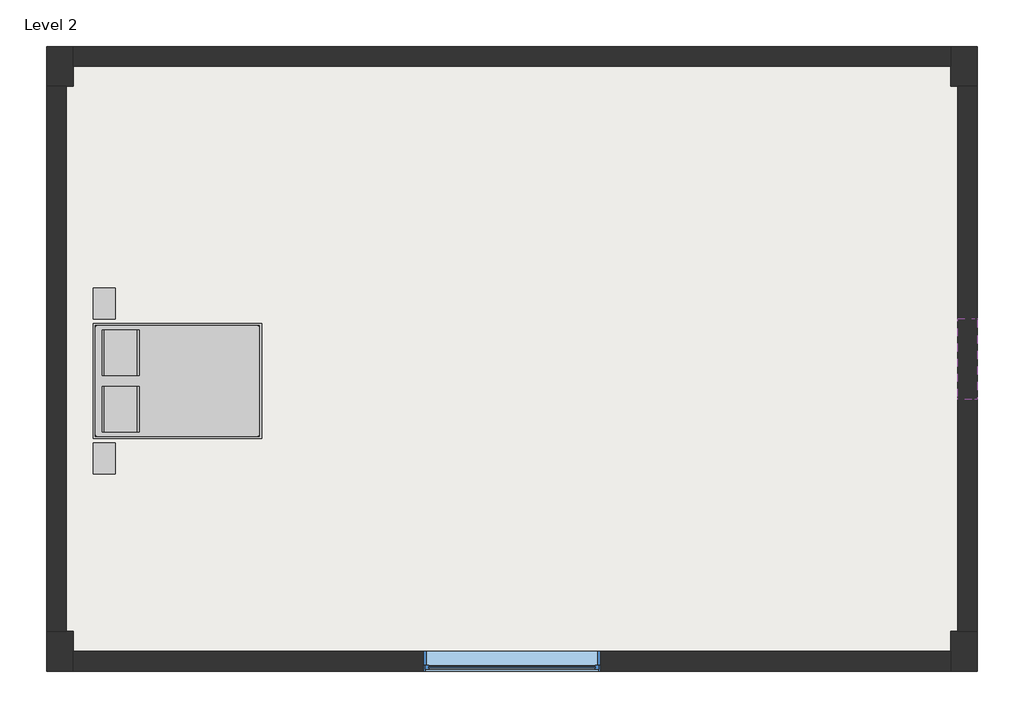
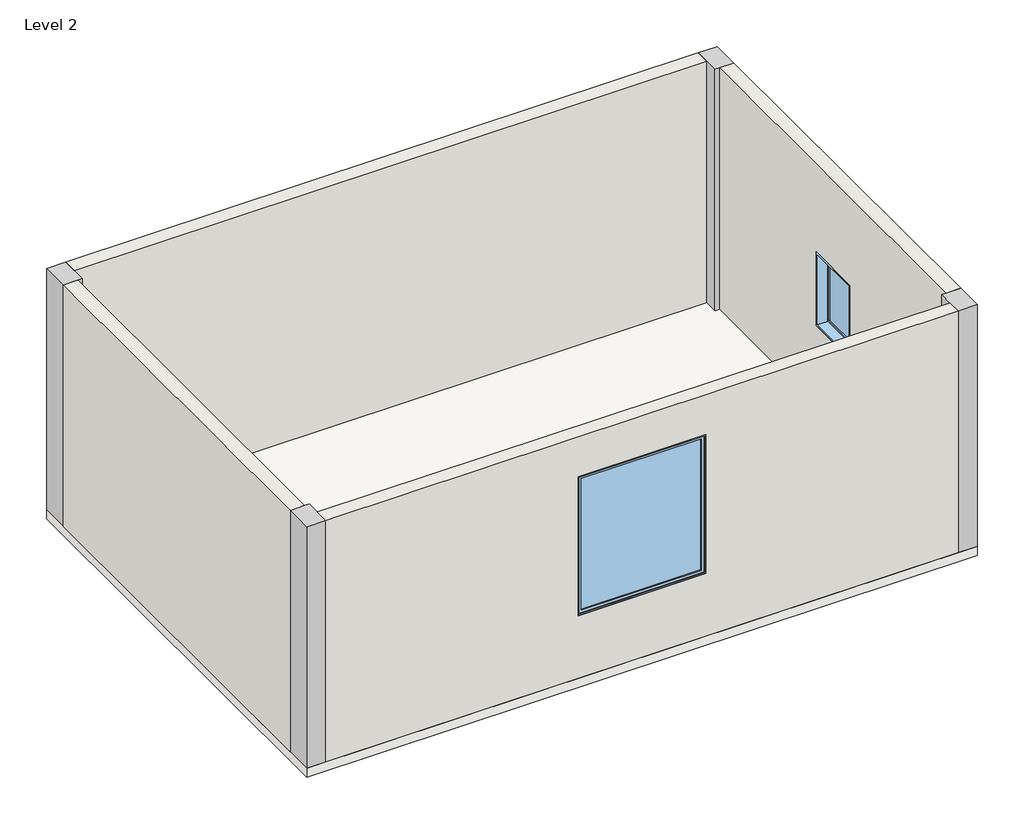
# One storey: 4 columns, 4 walls, 2 windows, 1 furniture element, 1 slab.
"""IFC4 building model written with IfcOpenShell, lengths in millimetres."""

from ifc_helpers import new_model, si_unit, frame, origin, place, context, project, spatial, polyline, outline, extrude, faceted_brep, transform, mapped, element, save
from components import furniture_1300_x_1900_9f84805e, m_fixed_0915_x_1220mm_70723515, m_fixed_0915_x_1830mm_85273121

model = new_model("IFC4")

# Units and contexts
model_context = context("Model", 3, world=origin())
ifc_project = project(units=[si_unit("LENGTHUNIT", "METRE", prefix="MILLI")], contexts=[model_context])

# Site, building, storey
site = spatial("IfcSite", under=ifc_project)
building = spatial("IfcBuilding", under=site)
storey = spatial("IfcBuildingStorey", under=building, Name="Level 2", Elevation=4000.0)

# Columns
placement = place(None, origin())
element("IfcColumn", 1, ObjectType="混凝土-矩形-柱 : 300 x 450 mm", at=placement, inside=storey, context=model_context, shape_type="Brep", body=[
    faceted_brep([(-10024.3047465, 1981.3483646, 4000.0), (-10024.3047465, 1756.3483646, 4000.0), (-10024.3047465, 1531.3483646, 4000.0), (-10099.3047465, 1531.3483646, 4000.0), (-10324.3047465, 1531.3483646, 4000.0), (-10324.3047465, 1981.3483646, 4000.0), (-10024.3047465, 1981.3483646, 8000.0), (-10024.3047465, 1756.3483646, 8000.0), (-10024.3047465, 1531.3483646, 8000.0), (-10099.3047465, 1531.3483646, 8000.0), (-10324.3047465, 1531.3483646, 8000.0), (-10324.3047465, 1981.3483646, 8000.0)], [[[0, 1, 2, 3, 4, 5]], [[6, 7, 8, 2, 1, 0]], [[8, 9, 10, 4, 3, 2]], [[10, 11, 5, 4]], [[11, 6, 0, 5]], [[6, 11, 10, 9, 8, 7]]]),
])
element("IfcColumn", 2, ObjectType="混凝土-矩形-柱 : 300 x 450 mm", at=placement, inside=storey, context=model_context, shape_type="Brep", body=[
    faceted_brep([(175.6952535, 1981.3483646, 4000.0), (175.6952535, 1531.3483646, 4000.0), (-49.3047465, 1531.3483646, 4000.0), (-124.3047465, 1531.3483646, 4000.0), (-124.3047465, 1756.3483646, 4000.0), (-124.3047465, 1981.3483646, 4000.0), (175.6952535, 1981.3483646, 8000.0), (175.6952535, 1531.3483646, 8000.0), (-49.3047465, 1531.3483646, 8000.0), (-124.3047465, 1531.3483646, 8000.0), (-124.3047465, 1756.3483646, 8000.0), (-124.3047465, 1981.3483646, 8000.0)], [[[0, 1, 2, 3, 4, 5]], [[6, 7, 1, 0]], [[7, 8, 9, 3, 2, 1]], [[9, 10, 11, 5, 4, 3]], [[11, 6, 0, 5]], [[6, 11, 10, 9, 8, 7]]]),
])
element("IfcColumn", 3, ObjectType="混凝土-矩形-柱 : 300 x 450 mm", at=placement, inside=storey, context=model_context, shape_type="Brep", body=[
    faceted_brep([(-10024.3047465, -4618.6516354, 4000.0), (-10024.3047465, -4843.6516354, 4000.0), (-10024.3047465, -5068.6516354, 4000.0), (-10324.3047465, -5068.6516354, 4000.0), (-10324.3047465, -4618.6516354, 4000.0), (-10099.3047465, -4618.6516354, 4000.0), (-10024.3047465, -4618.6516354, 8000.0), (-10024.3047465, -4843.6516354, 8000.0), (-10024.3047465, -5068.6516354, 8000.0), (-10324.3047465, -5068.6516354, 8000.0), (-10324.3047465, -4618.6516354, 8000.0), (-10099.3047465, -4618.6516354, 8000.0)], [[[0, 1, 2, 3, 4, 5]], [[6, 7, 8, 2, 1, 0]], [[8, 9, 3, 2]], [[9, 10, 4, 3]], [[10, 11, 6, 0, 5, 4]], [[6, 11, 10, 9, 8, 7]]]),
])
element("IfcColumn", 4, ObjectType="混凝土-矩形-柱 : 300 x 450 mm", at=placement, inside=storey, context=model_context, shape_type="Brep", body=[
    faceted_brep([(175.6952535, -4618.6516354, 4000.0), (175.6952535, -5068.6516354, 4000.0), (-124.3047465, -5068.6516354, 4000.0), (-124.3047465, -4843.6516354, 4000.0), (-124.3047465, -4618.6516354, 4000.0), (-49.3047465, -4618.6516354, 4000.0), (175.6952535, -4618.6516354, 8000.0), (175.6952535, -5068.6516354, 8000.0), (-124.3047465, -5068.6516354, 8000.0), (-124.3047465, -4843.6516354, 8000.0), (-124.3047465, -4618.6516354, 8000.0), (-49.3047465, -4618.6516354, 8000.0)], [[[0, 1, 2, 3, 4, 5]], [[6, 7, 1, 0]], [[7, 8, 2, 1]], [[8, 9, 10, 4, 3, 2]], [[10, 11, 6, 0, 5, 4]], [[6, 11, 10, 9, 8, 7]]]),
])

# Furniture
furniture_1300_x_1900_shape = furniture_1300_x_1900_9f84805e(model_context)
element("IfcFurniture", 5, ObjectType="双人床带床头柜 : 1300 x 1900", at=placement, inside=storey, context=model_context, shape_type="MappedRepresentation", body=[
    mapped(furniture_1300_x_1900_shape, transform((-9083.7342547, -2132.8040945, 4000.0), x_axis=(0.0, 1.0000000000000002, 0.0), y_axis=(-1.0000000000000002, 0.0, 0.0), z_axis=(0.0, 0.0, 1.0))),
])

# Slab
element("IfcSlab", 6, ObjectType="Generic 150mm", at=placement, inside=storey, context=model_context, shape_type="SweptSolid", body=[
    extrude(outline(polyline([(175.6952535, 1981.3483646), (175.6952535, -5068.6516354), (-10324.3047465, -5068.6516354), (-10324.3047465, 1981.3483646), (175.6952535, 1981.3483646)])), frame((0.0, 0.0, 3850.0), z_axis=(0.0, 0.0, 1.0), x_axis=(1.0, 0.0, 0.0)), (0.0, 0.0, 1.0), 150.0),
])

# Walls
element("IfcWall", 7, ObjectType="Generic - 225mm Masonry", at=placement, inside=storey, context=model_context, shape_type="SweptSolid", body=[
    extrude(outline(polyline([(-10324.3047465, 1531.3483646), (-10099.3047465, 1531.3483646), (-10099.3047465, -4618.6516354), (-10324.3047465, -4618.6516354), (-10324.3047465, 1531.3483646)])), frame((0.0, 0.0, 4000.0), z_axis=(0.0, 0.0, 1.0), x_axis=(1.0, 0.0, 0.0)), (0.0, 0.0, 1.0), 4000.0),
])
element("IfcWall", 8, ObjectType="Generic - 225mm Masonry", at=placement, inside=storey, context=model_context, shape_type="SweptSolid", body=[
    extrude(outline(polyline([(-124.3047465, 1981.3483646), (-124.3047465, 1756.3483646), (-10024.3047465, 1756.3483646), (-10024.3047465, 1981.3483646), (-124.3047465, 1981.3483646)])), frame((0.0, 0.0, 4000.0), z_axis=(0.0, 0.0, 1.0), x_axis=(1.0, 0.0, 0.0)), (0.0, 0.0, 1.0), 4000.0),
])
element("IfcWall", 9, ObjectType="Generic - 225mm Masonry", at=placement, inside=storey, context=model_context, shape_type="SweptSolid", body=[
    extrude(outline(polyline([(-4618.6516354, 4000.0), (-4618.6516354, 8000.0), (1531.3483646, 8000.0), (1531.3483646, 4000.0), (-4618.6516354, 4000.0)]), holes=[polyline([(-1086.1516354, 5319.6038208), (-1086.1516354, 6539.6038208), (-2001.1516354, 6539.6038208), (-2001.1516354, 5319.6038208), (-1086.1516354, 5319.6038208)])]), frame((-49.3047465, 0.0, 0.0), z_axis=(1.0, 0.0, 0.0), x_axis=(0.0, 1.0, 0.0)), (0.0, 0.0, 1.0), 225.0),
])
element("IfcWall", 10, ObjectType="Generic - 225mm Masonry", at=placement, inside=storey, context=model_context, shape_type="SweptSolid", body=[
    extrude(outline(polyline([(8000.0, -10024.3047465), (4000.0, -10024.3047465), (4000.0, -124.3047465), (8000.0, -124.3047465), (8000.0, -10024.3047465)]), holes=[polyline([(7339.9927158, -4074.3047465), (5039.9927158, -4074.3047465), (5039.9927158, -6074.3047465), (7339.9927158, -6074.3047465), (7339.9927158, -4074.3047465)])]), frame((0.0, -5068.6516354, 0.0), z_axis=(0.0, 1.0, 0.0), x_axis=(0.0, 0.0, 1.0)), (0.0, 0.0, 1.0), 225.0),
])

# Windows
m_fixed_0915_x_1220mm_shape = m_fixed_0915_x_1220mm_70723515(model_context)
element("IfcWindow", 11, ObjectType="M_Fixed : 0915 x 1220mm", at=placement, inside=storey, context=model_context, shape_type="MappedRepresentation", body=[
    mapped(m_fixed_0915_x_1220mm_shape, transform((50.1952535, -1543.6516354, 4404.6038208), x_axis=(0.0, -1.0, 0.0), y_axis=(1.0, 0.0, 0.0), z_axis=(0.0, 0.0, 1.0))),
])
m_fixed_0915_x_1830mm_shape = m_fixed_0915_x_1830mm_85273121(model_context)
element("IfcWindow", 12, ObjectType="M_Fixed : 2000 x 2300mm", at=placement, inside=storey, context=model_context, shape_type="MappedRepresentation", body=[
    mapped(m_fixed_0915_x_1830mm_shape, transform((-5074.3047465, -4943.1516354, 4734.9927158), x_axis=(-1.0, 0.0, 0.0), y_axis=(0.0, -1.0, 0.0), z_axis=(0.0, 0.0, 1.0))),
])

save(model, "model.ifc")
